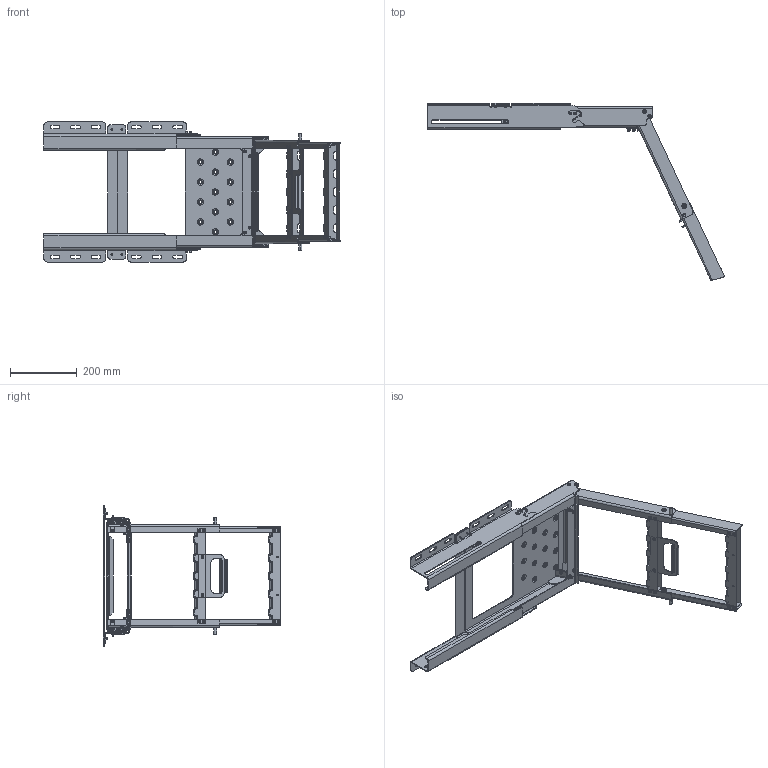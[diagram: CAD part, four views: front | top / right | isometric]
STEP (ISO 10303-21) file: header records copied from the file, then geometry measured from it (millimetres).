
FILE_DESCRIPTION (( 'STEP AP214' ), '1' );
FILE_NAME ('TK8180_APERTA_REV4.STEP', '2025-03-10T16:00:31', ( '' ), ( '' ), 'SwSTEP 2.0', 'SolidWorks 2023', '' );
FILE_SCHEMA (( 'AUTOMOTIVE_DESIGN' ));
Length unit declared in the file: millimetre
Products named in the file (45): TR1341; TS818031; TS818047; TS818016; TS818042; TS818002_TS818002; TS818038; TS818046; TS818036; TS818004_TS818004; TS818023; TS818039; TR1554; TR1349; TS818041; TS818043; TS818008_COSCIALE 65 GRADI +1 mm; TS818032; TS818006_PER_ASSIEME; TR1322; TR0947; TS818026; TS818014; TS818028; TR0042; TS818044; TS818029; TS818010_TS818010; TS818033; TS818040; TS818027; TS818021; TR1678; TR1591; TR1350; TS818000_TS818002; TS818035; TK8180_APERTA_REV4; TS818037; TR1342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
Assembly tree (89 placements, depth 5):
  TK8180_APERTA_REV4
    TR1349  x2
    TR1350  x2
    TR1341  x2
    TS818026  x2
    TS818028
    TR0969  x4
    TR1342  x4
    TR1678  x2
    TS818027
    TS818037
      TS818038
        TS818023
        TS818002_TS818002
        TR1322  x4
        TS818000_TS818002
    TS818039
      TS818040
        TS818004_TS818004
        TS818021
        TR1554  x4
        TR0947  x4
    TS818041
      TS818042
        TS818012
        TR1322  x6
        TS818006_PER_ASSIEME
        TS818033
          TR1591
          TS818010_TS818010
        TS818032
          TR1591
          TS818008_COSCIALE 65 GRADI +1 mm
    TS818043
      TS818044
        TR1322  x4
        TS818016
        TS818018
        TS818006_PER_ASSIEME
    TR1322  x8
    TS818045
      TS818014
    TS818035  x2
      TS818036
    TS818046
      TS818029
    TS818047
      TS818031
    TR0042  x2
    TR1672  x4
Bounding box: 890.25 x 533.68 x 421 mm (x, y, z)
Volume: 1453526.2 mm3; surface area: 1072810.3 mm2
Topology: 83 solids, 83 shells, 2653 faces, 6407 edges, 3910 vertices
Faces by surface type: plane 1170, cylinder 971, cone 240, torus 204, bspline 68
Entity records: 51522 total; most frequent: CARTESIAN_POINT 9379, DIRECTION 9172, ORIENTED_EDGE 8142, EDGE_CURVE 4071, AXIS2_PLACEMENT_3D 3500, VERTEX_POINT 2501, VECTOR 2172, LINE 2172
